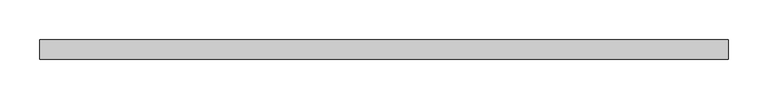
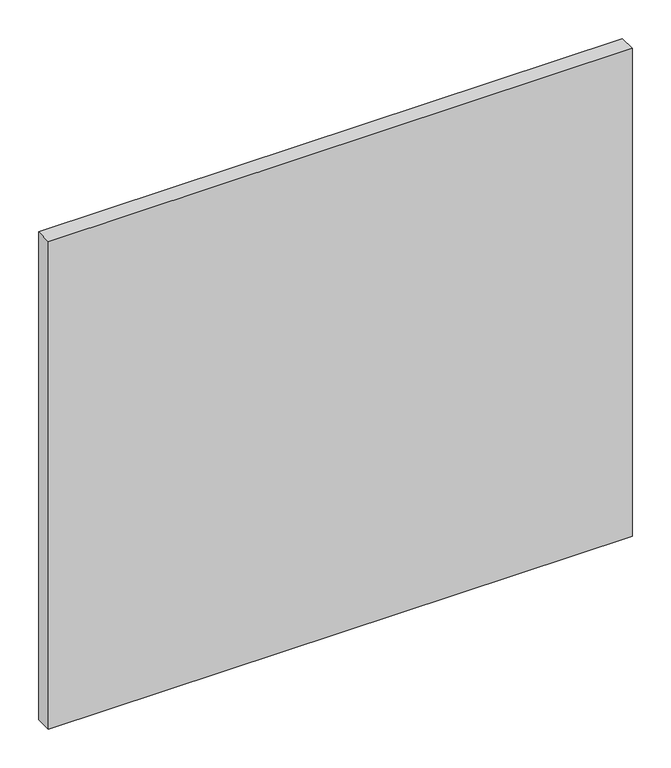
"""IFC4 building model written with IfcOpenShell, lengths in millimetres: plate geometry, 系统嵌板 : 玻璃."""

import ifcopenshell
import ifcopenshell.guid

model = None  # the IFC model being written
_history = None  # IfcOwnerHistory: only IFC2X3 demands one
_inside = {}  # id of a spatial element -> (the spatial element, [elements in it])
_under = {}  # id of a project, library or spatial element -> (it, [spatial elements below it])
_declared = {}  # id of a project -> (the project, [libraries it declares])
_typed = {}  # id of a type object -> (the type object, [elements of that type])
_made_of = {}  # id of a material, layer set ... -> (it, [elements and type objects made of it])


def new_model(schema):
    """Start an empty IFC model of exactly this schema.

    Asked for "IFC4X3", IfcOpenShell would pick the latest addendum, in which some entities
    have other attributes; the version numbers below select the first issue.
    IFC2X3 requires an IfcOwnerHistory on every rooted entity: one is made here for all.
    """
    global model, _history
    if schema == "IFC4X3":
        model = ifcopenshell.file(schema_version=(4, 3, 0, 0))
    else:
        model = ifcopenshell.file(schema=schema)
    _inside.clear()
    _under.clear()
    _declared.clear()
    _typed.clear()
    _made_of.clear()
    _history = None
    if model.schema == "IFC2X3":
        org = make("IfcOrganization", Name="unknown")
        user = make(
            "IfcPersonAndOrganization",
            ThePerson=make("IfcPerson", FamilyName="unknown"),
            TheOrganization=org,
        )
        app = make(
            "IfcApplication",
            ApplicationDeveloper=org,
            Version="unknown",
            ApplicationFullName="unknown",
            ApplicationIdentifier="unknown",
        )
        _history = make(
            "IfcOwnerHistory",
            OwningUser=user,
            OwningApplication=app,
            ChangeAction="ADDED",
            CreationDate=0,
        )
    return model


def make(cls, **values):
    """One entity of the class cls with the attributes given. An attribute that is None is left unset."""
    return model.create_entity(
        cls, **{name: value for name, value in values.items() if value is not None}
    )


def rooted(cls, **values):
    """An entity with a GlobalId (a new one), such as an element, a storey or a relation."""
    return make(cls, GlobalId=ifcopenshell.guid.new(), OwnerHistory=_history, **values)


def si_unit(unit_type, name, prefix=None):
    """IfcSIUnit, for example si_unit("LENGTHUNIT", "METRE", prefix="MILLI")."""
    return make("IfcSIUnit", UnitType=unit_type, Prefix=prefix, Name=name)


def assignment(units):
    """IfcUnitAssignment: the units of a project."""
    return None if units is None else make("IfcUnitAssignment", Units=units)


def point(xyz):
    """IfcCartesianPoint."""
    return None if xyz is None else make("IfcCartesianPoint", Coordinates=xyz)


def direction(xyz):
    """IfcDirection."""
    return None if xyz is None else make("IfcDirection", DirectionRatios=xyz)


def frame(location, z_axis=None, x_axis=None):
    """IfcAxis2Placement3D, a coordinate frame: its origin and axes. An axis left out is left unset."""
    return make(
        "IfcAxis2Placement3D",
        Location=point(location),
        Axis=direction(z_axis),
        RefDirection=direction(x_axis),
    )


def origin():
    """The frame at (0, 0, 0) with its axes left unset."""
    return frame((0.0, 0.0, 0.0))


def origin_with_axes():
    """The frame at (0, 0, 0) with the z axis (0, 0, 1) and the x axis (1, 0, 0) written out."""
    return frame((0.0, 0.0, 0.0), z_axis=(0.0, 0.0, 1.0), x_axis=(1.0, 0.0, 0.0))


def place(relative_to, where):
    """IfcLocalPlacement: puts the frame where relative to a parent placement (None: the world)."""
    return make(
        "IfcLocalPlacement", PlacementRelTo=relative_to, RelativePlacement=where
    )


def context(
    kind, dimensions, precision=None, world=None, true_north=None, identifier=None
):
    """IfcGeometricRepresentationContext, for example the 3D "Model" context."""
    return make(
        "IfcGeometricRepresentationContext",
        ContextIdentifier=identifier,
        ContextType=kind,
        CoordinateSpaceDimension=dimensions,
        Precision=precision,
        WorldCoordinateSystem=world,
        TrueNorth=true_north,
    )


def project(units=None, contexts=None):
    """IfcProject with its units and contexts."""
    return rooted(
        "IfcProject",
        Name="project",
        RepresentationContexts=contexts,
        UnitsInContext=assignment(units),
    )


def spatial(cls, under=None, at=None, **own):
    """A site, building, storey or space (cls), placed at a placement, below another one or the project."""
    s = rooted(cls, ObjectPlacement=at, **own)
    if under is not None:
        _under.setdefault(under.id(), (under, []))[1].append(s)
    return s


def polyline(points):
    """IfcPolyline through the points."""
    return make("IfcPolyline", Points=[point(p) for p in points])


def outline(outer, holes=None, kind="AREA"):
    """IfcArbitraryClosedProfileDef: a profile drawn as a closed curve; with holes, ...WithVoids."""
    if holes is None:
        return make("IfcArbitraryClosedProfileDef", ProfileType=kind, OuterCurve=outer)
    return make(
        "IfcArbitraryProfileDefWithVoids",
        ProfileType=kind,
        OuterCurve=outer,
        InnerCurves=holes,
    )


def extrude(swept, where, along, depth):
    """IfcExtrudedAreaSolid: the profile swept, set in the frame where, extruded along a direction by depth."""
    return make(
        "IfcExtrudedAreaSolid",
        SweptArea=swept,
        Position=where,
        ExtrudedDirection=direction(along),
        Depth=depth,
    )


def shape(context_of_items, identifier, shape_type, items):
    """IfcShapeRepresentation: the items that make up one representation, for example the "Body"."""
    return make(
        "IfcShapeRepresentation",
        ContextOfItems=context_of_items,
        RepresentationIdentifier=identifier,
        RepresentationType=shape_type,
        Items=items,
    )


def source(mapping_origin, context_of_items, identifier, shape_type, items):
    """IfcRepresentationMap: a shape defined once, which mapped items show again and again."""
    return make(
        "IfcRepresentationMap",
        MappingOrigin=mapping_origin,
        MappedRepresentation=shape(context_of_items, identifier, shape_type, items),
    )


def transform(
    local_origin,
    x_axis=None,
    y_axis=None,
    z_axis=None,
    scale=None,
    scale2=None,
    scale3=None,
    uniform=True,
):
    """IfcCartesianTransformationOperator3D, or its non-uniform kind. x_axis, y_axis, z_axis: its Axis1, 2, 3."""
    if uniform:
        return make(
            "IfcCartesianTransformationOperator3D",
            Axis1=direction(x_axis),
            Axis2=direction(y_axis),
            LocalOrigin=point(local_origin),
            Scale=scale,
            Axis3=direction(z_axis),
        )
    return make(
        "IfcCartesianTransformationOperator3DnonUniform",
        Axis1=direction(x_axis),
        Axis2=direction(y_axis),
        LocalOrigin=point(local_origin),
        Scale=scale,
        Axis3=direction(z_axis),
        Scale2=scale2,
        Scale3=scale3,
    )


def mapped(mapping_source, mapping_target):
    """IfcMappedItem: shows the shape of a source again, moved by a transform."""
    return make(
        "IfcMappedItem", MappingSource=mapping_source, MappingTarget=mapping_target
    )


def made_of(thing, what):
    """Note that an element or type object is made of a material, layer set ...; save() writes the relation."""
    if what is not None:
        _made_of.setdefault(what.id(), (what, []))[1].append(thing)
    return thing


def element(
    cls,
    number,
    at=None,
    inside=None,
    cuts=None,
    type_object=None,
    material=None,
    context=None,
    identifier="Body",
    shape_type=None,
    held_by="IfcProductDefinitionShape",
    body=None,
    shapes=None,
    **own,
):
    """One element of the class cls, such as IfcWall. Its Tag is "e" and its number.

    at: its placement. inside: the storey or other place that contains it. cuts: it is an
    opening in that element (IfcRelVoidsElement). A single representation is given by context,
    identifier, shape_type and body (its items); several are given by shapes. held_by: the class
    of the entity that holds the representations. save() writes the other relations.
    """
    e = rooted(cls, Tag="e%d" % number, ObjectPlacement=at, **own)
    if body is not None:
        shapes = [shape(context, identifier, shape_type, body)]
    if shapes is not None:
        e.Representation = make(held_by, Representations=shapes)
    if inside is not None:
        _inside.setdefault(inside.id(), (inside, []))[1].append(e)
    if cuts is not None:
        rooted(
            "IfcRelVoidsElement", RelatingBuildingElement=cuts, RelatedOpeningElement=e
        )
    if type_object is not None:
        _typed.setdefault(type_object.id(), (type_object, []))[1].append(e)
    return made_of(e, material)


def aggregate(whole, parts):
    """IfcRelAggregates: a whole, such as a stair, and the parts it consists of."""
    return rooted("IfcRelAggregates", RelatingObject=whole, RelatedObjects=parts)


def save(model, path):
    """Write the relations noted so far, then the file.

    IfcRelAggregates (storeys below a building ...), IfcRelContainedInSpatialStructure (elements
    in a storey), IfcRelDefinesByType, IfcRelAssociatesMaterial and IfcRelDeclares: one each for
    every whole, place, type object, material and project.
    """
    for whole, parts in _under.values():
        aggregate(whole, parts)
    for where, things in _inside.values():
        rooted(
            "IfcRelContainedInSpatialStructure",
            RelatedElements=things,
            RelatingStructure=where,
        )
    for kind, things in _typed.values():
        rooted("IfcRelDefinesByType", RelatedObjects=things, RelatingType=kind)
    for what, things in _made_of.values():
        rooted("IfcRelAssociatesMaterial", RelatedObjects=things, RelatingMaterial=what)
    for by, libraries in _declared.values():
        rooted("IfcRelDeclares", RelatingContext=by, RelatedDefinitions=libraries)
    model.write(path)


def plate_3ef9a45c(model_context):
    return source(origin(), model_context, "Body", "SweptSolid", [
        extrude(outline(polyline([(435.8333333, -12.5), (-435.8333333, -12.5), (-435.8333333, 12.5), (435.8333333, 12.5), (435.8333333, -12.5)])), origin_with_axes(), (0.0, 0.0, 1.0), 770.0),
    ])


if __name__ == "__main__":
    model = new_model("IFC4")
    model_context = context("Model", 3, world=origin())
    ifc_project = project(units=[si_unit("LENGTHUNIT", "METRE", prefix="MILLI")], contexts=[model_context])
    site = spatial("IfcSite", under=ifc_project)
    building = spatial("IfcBuilding", under=site)
    placement = place(None, origin())
    plate_shape = plate_3ef9a45c(model_context)
    element("IfcPlate", 1, ObjectType="系统嵌板 : 玻璃", at=placement, inside=building, context=model_context, shape_type="MappedRepresentation", body=[
        mapped(plate_shape, transform((0.0, 0.0, 0.0), x_axis=(1.0, 0.0, 0.0), y_axis=(0.0, 1.0, 0.0), z_axis=(0.0, 0.0, 1.0))),
    ])
    save(model, "model.ifc")
